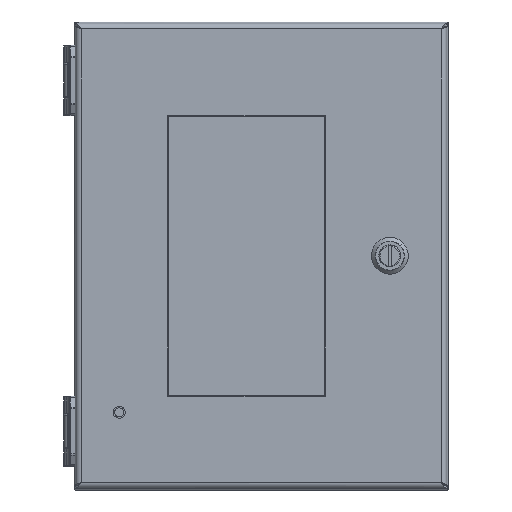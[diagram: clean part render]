
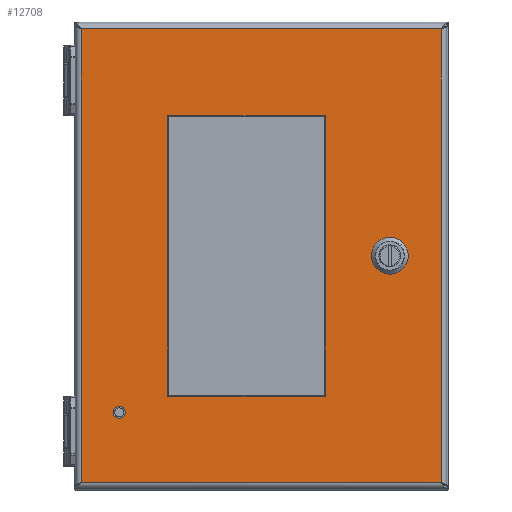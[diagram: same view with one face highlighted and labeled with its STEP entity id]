
A CAD part, top view. The second image highlights one B-rep face of the part: STEP entity #12708.
In plain terms, the highlighted planar face has unit normal (0, 0, 1).
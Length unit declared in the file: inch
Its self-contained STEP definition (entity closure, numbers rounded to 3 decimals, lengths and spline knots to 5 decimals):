
#10589=CARTESIAN_POINT('',(-3.035,-3.347,0.81));
#10590=DIRECTION('',(0.,0.,1.));
#10591=DIRECTION('',(-1.,0.,0.));
#10592=AXIS2_PLACEMENT_3D('',#10589,#10590,#10591);
#10597=CARTESIAN_POINT('',(-3.035,-3.347,0.81));
#10598=DIRECTION('',(0.,0.,1.));
#10599=DIRECTION('',(1.,0.,0.));
#10600=AXIS2_PLACEMENT_3D('',#10597,#10598,#10599);
#10605=DIRECTION('',(0.707,0.707,0.));
#10606=VECTOR('',#10605,0.30984);
#10607=CARTESIAN_POINT('',(2.44447,0.08845,0.81));
#10608=LINE('',#10607,#10606);
#10612=CARTESIAN_POINT('',(2.752,0.,0.81));
#10613=DIRECTION('',(0.,0.,1.));
#10614=DIRECTION('',(-0.961,0.276,0.));
#10615=AXIS2_PLACEMENT_3D('',#10612,#10613,#10614);
#10620=DIRECTION('',(-0.707,0.707,0.));
#10621=VECTOR('',#10620,0.30984);
#10622=CARTESIAN_POINT('',(2.66355,-0.30753,0.81));
#10623=LINE('',#10622,#10621);
#10627=CARTESIAN_POINT('',(2.752,0.,0.81));
#10628=DIRECTION('',(0.,0.,1.));
#10629=DIRECTION('',(-0.276,-0.961,0.));
#10630=AXIS2_PLACEMENT_3D('',#10627,#10628,#10629);
#10635=DIRECTION('',(-0.707,-0.707,0.));
#10636=VECTOR('',#10635,0.30984);
#10637=CARTESIAN_POINT('',(3.05953,-0.08845,0.81));
#10638=LINE('',#10637,#10636);
#10642=CARTESIAN_POINT('',(2.752,0.,0.81));
#10643=DIRECTION('',(0.,0.,1.));
#10644=DIRECTION('',(0.961,-0.276,0.));
#10645=AXIS2_PLACEMENT_3D('',#10642,#10643,#10644);
#10650=DIRECTION('',(0.707,-0.707,0.));
#10651=VECTOR('',#10650,0.30984);
#10652=CARTESIAN_POINT('',(2.84045,0.30753,0.81));
#10653=LINE('',#10652,#10651);
#10657=CARTESIAN_POINT('',(2.752,0.,0.81));
#10658=DIRECTION('',(0.,0.,1.));
#10659=DIRECTION('',(0.276,0.961,0.));
#10660=AXIS2_PLACEMENT_3D('',#10657,#10658,#10659);
#10665=DIRECTION('',(1.,0.,0.));
#10666=VECTOR('',#10665,3.375);
#10667=CARTESIAN_POINT('',(-2.,3.,0.81));
#10668=LINE('',#10667,#10666);
#10672=DIRECTION('',(0.,1.,0.));
#10673=VECTOR('',#10672,6.);
#10674=CARTESIAN_POINT('',(-2.,-3.,0.81));
#10675=LINE('',#10674,#10673);
#10679=DIRECTION('',(-1.,0.,0.));
#10680=VECTOR('',#10679,3.375);
#10681=CARTESIAN_POINT('',(1.375,-3.,0.81));
#10682=LINE('',#10681,#10680);
#10686=DIRECTION('',(0.,-1.,0.));
#10687=VECTOR('',#10686,6.);
#10688=CARTESIAN_POINT('',(1.375,3.,0.81));
#10689=LINE('',#10688,#10687);
#10693=DIRECTION('',(1.,0.,0.));
#10694=VECTOR('',#10693,7.7);
#10695=CARTESIAN_POINT('',(-3.85,-4.85,0.81));
#10696=LINE('',#10695,#10694);
#10788=DIRECTION('',(0.,1.,0.));
#10789=VECTOR('',#10788,9.7);
#10790=CARTESIAN_POINT('',(3.85,-4.85,0.81));
#10791=LINE('',#10790,#10789);
#10839=DIRECTION('',(-1.,0.,0.));
#10840=VECTOR('',#10839,7.7);
#10841=CARTESIAN_POINT('',(3.85,4.85,0.81));
#10842=LINE('',#10841,#10840);
#10941=DIRECTION('',(0.,-1.,0.));
#10942=VECTOR('',#10941,9.7);
#10943=CARTESIAN_POINT('',(-3.85,4.85,0.81));
#10944=LINE('',#10943,#10942);
#12395=CARTESIAN_POINT('',(-3.85,4.85,0.81));
#12396=CARTESIAN_POINT('',(-3.85,-4.85,0.81));
#12397=VERTEX_POINT('',#12395);
#12398=VERTEX_POINT('',#12396);
#12399=CARTESIAN_POINT('',(3.85,-4.85,0.81));
#12400=CARTESIAN_POINT('',(3.85,4.85,0.81));
#12401=VERTEX_POINT('',#12399);
#12402=VERTEX_POINT('',#12400);
#12485=CARTESIAN_POINT('',(-3.13305,-3.347,0.81));
#12486=CARTESIAN_POINT('',(-2.93695,-3.347,0.81));
#12487=VERTEX_POINT('',#12485);
#12488=VERTEX_POINT('',#12486);
#12493=CARTESIAN_POINT('',(2.44447,0.08845,0.81));
#12494=CARTESIAN_POINT('',(2.66355,0.30753,0.81));
#12495=VERTEX_POINT('',#12493);
#12496=VERTEX_POINT('',#12494);
#12497=CARTESIAN_POINT('',(2.84045,0.30753,0.81));
#12498=VERTEX_POINT('',#12497);
#12499=CARTESIAN_POINT('',(3.05953,0.08845,0.81));
#12500=VERTEX_POINT('',#12499);
#12501=CARTESIAN_POINT('',(3.05953,-0.08845,0.81));
#12502=VERTEX_POINT('',#12501);
#12503=CARTESIAN_POINT('',(2.84045,-0.30753,0.81));
#12504=VERTEX_POINT('',#12503);
#12505=CARTESIAN_POINT('',(2.66355,-0.30753,0.81));
#12506=VERTEX_POINT('',#12505);
#12507=CARTESIAN_POINT('',(2.44447,-0.08845,0.81));
#12508=VERTEX_POINT('',#12507);
#12529=CARTESIAN_POINT('',(-2.,3.,0.81));
#12530=CARTESIAN_POINT('',(1.375,3.,0.81));
#12531=VERTEX_POINT('',#12529);
#12532=VERTEX_POINT('',#12530);
#12533=CARTESIAN_POINT('',(1.375,-3.,0.81));
#12534=VERTEX_POINT('',#12533);
#12535=CARTESIAN_POINT('',(-2.,-3.,0.81));
#12536=VERTEX_POINT('',#12535);
#12659=CARTESIAN_POINT('',(0.,0.,0.81));
#12660=DIRECTION('',(0.,0.,1.));
#12661=DIRECTION('',(1.,0.,0.));
#12662=AXIS2_PLACEMENT_3D('',#12659,#12660,#12661);
#12663=PLANE('',#12662);
#12665=ORIENTED_EDGE('',*,*,#12664,.F.);
#12667=ORIENTED_EDGE('',*,*,#12666,.F.);
#12669=ORIENTED_EDGE('',*,*,#12668,.F.);
#12671=ORIENTED_EDGE('',*,*,#12670,.F.);
#12672=EDGE_LOOP('',(#12665,#12667,#12669,#12671));
#12673=FACE_OUTER_BOUND('',#12672,.F.);
#12675=ORIENTED_EDGE('',*,*,#12674,.T.);
#12677=ORIENTED_EDGE('',*,*,#12676,.T.);
#12678=EDGE_LOOP('',(#12675,#12677));
#12679=FACE_BOUND('',#12678,.F.);
#12681=ORIENTED_EDGE('',*,*,#12680,.F.);
#12683=ORIENTED_EDGE('',*,*,#12682,.T.);
#12685=ORIENTED_EDGE('',*,*,#12684,.F.);
#12687=ORIENTED_EDGE('',*,*,#12686,.T.);
#12689=ORIENTED_EDGE('',*,*,#12688,.F.);
#12691=ORIENTED_EDGE('',*,*,#12690,.T.);
#12693=ORIENTED_EDGE('',*,*,#12692,.F.);
#12695=ORIENTED_EDGE('',*,*,#12694,.T.);
#12696=EDGE_LOOP('',(#12681,#12683,#12685,#12687,#12689,#12691,#12693,#12695));
#12697=FACE_BOUND('',#12696,.F.);
#12699=ORIENTED_EDGE('',*,*,#12698,.F.);
#12701=ORIENTED_EDGE('',*,*,#12700,.F.);
#12703=ORIENTED_EDGE('',*,*,#12702,.F.);
#12705=ORIENTED_EDGE('',*,*,#12704,.F.);
#12706=EDGE_LOOP('',(#12699,#12701,#12703,#12705));
#12707=FACE_BOUND('',#12706,.F.);
#10593=CIRCLE('',#10592,0.09805);
#10601=CIRCLE('',#10600,0.09805);
#10616=CIRCLE('',#10615,0.32);
#10631=CIRCLE('',#10630,0.32);
#10646=CIRCLE('',#10645,0.32);
#10661=CIRCLE('',#10660,0.32);
#12664=EDGE_CURVE('',#12398,#12401,#10696,.T.);
#12666=EDGE_CURVE('',#12397,#12398,#10944,.T.);
#12668=EDGE_CURVE('',#12402,#12397,#10842,.T.);
#12670=EDGE_CURVE('',#12401,#12402,#10791,.T.);
#12674=EDGE_CURVE('',#12487,#12488,#10593,.T.);
#12676=EDGE_CURVE('',#12488,#12487,#10601,.T.);
#12680=EDGE_CURVE('',#12495,#12496,#10608,.T.);
#12682=EDGE_CURVE('',#12495,#12508,#10616,.T.);
#12684=EDGE_CURVE('',#12506,#12508,#10623,.T.);
#12686=EDGE_CURVE('',#12506,#12504,#10631,.T.);
#12688=EDGE_CURVE('',#12502,#12504,#10638,.T.);
#12690=EDGE_CURVE('',#12502,#12500,#10646,.T.);
#12692=EDGE_CURVE('',#12498,#12500,#10653,.T.);
#12694=EDGE_CURVE('',#12498,#12496,#10661,.T.);
#12698=EDGE_CURVE('',#12531,#12532,#10668,.T.);
#12700=EDGE_CURVE('',#12536,#12531,#10675,.T.);
#12702=EDGE_CURVE('',#12534,#12536,#10682,.T.);
#12704=EDGE_CURVE('',#12532,#12534,#10689,.T.);
#12708=ADVANCED_FACE('',(#12673,#12679,#12697,#12707),#12663,.T.);
